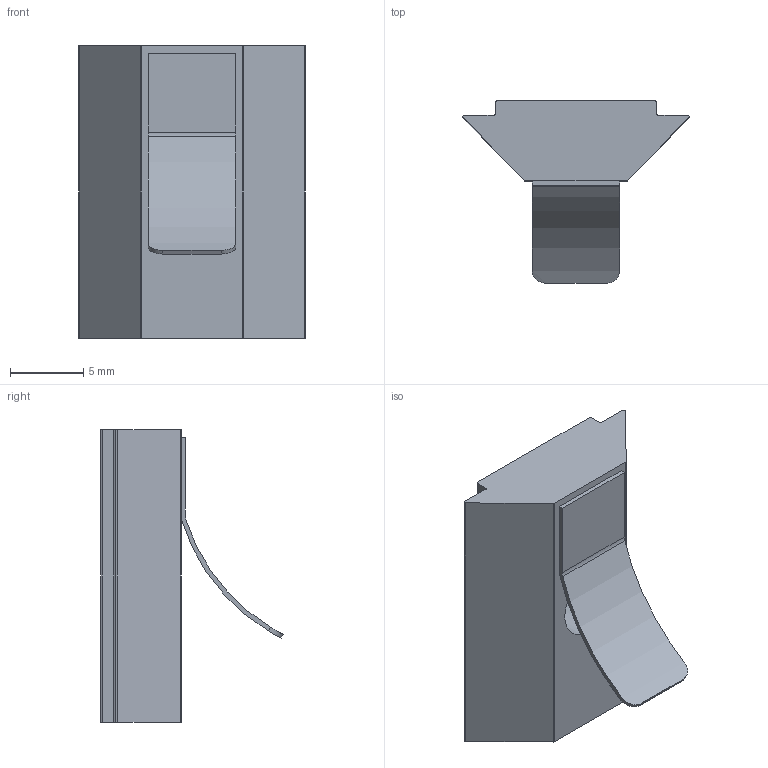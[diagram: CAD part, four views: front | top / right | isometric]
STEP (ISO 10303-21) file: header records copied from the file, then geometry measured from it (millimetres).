
FILE_DESCRIPTION((''),'2;1');
FILE_NAME('C:\Vault Klient\Projekt\Step\100-6040.stp','2009-12-10T12:25:18',('Mathias'),(''),'Autodesk Inventor 2010','Autodesk Inventor 2010','');
FILE_SCHEMA(('CONFIG_CONTROL_DESIGN'));
Length unit declared in the file: millimetre
Products named in the file (1): 100-6040
Bounding box: 15.5 x 12.5 x 20 mm (x, y, z)
Volume: 1169.1 mm3; surface area: 1046.7 mm2
Topology: 1 solids, 1 shells, 29 faces, 79 edges, 53 vertices
Faces by surface type: plane 15, cylinder 13, bspline 1
Entity records: 982 total; most frequent: CARTESIAN_POINT 212, DIRECTION 155, ORIENTED_EDGE 154, EDGE_CURVE 77, AXIS2_PLACEMENT_3D 53, VERTEX_POINT 52, VECTOR 49, LINE 49
